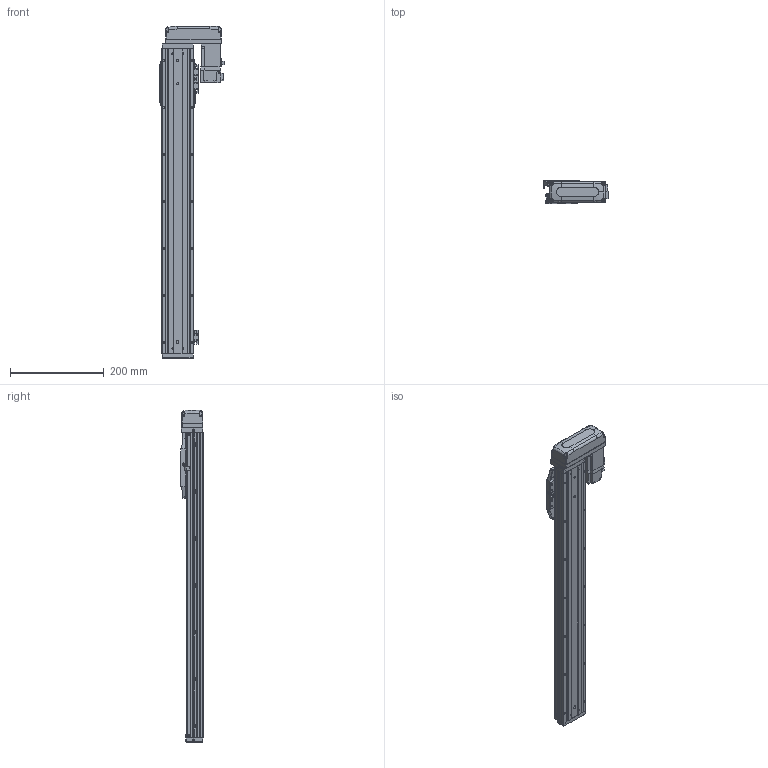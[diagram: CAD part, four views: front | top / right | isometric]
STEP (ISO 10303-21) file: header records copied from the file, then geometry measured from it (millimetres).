
FILE_DESCRIPTION (( 'STEP AP203' ), '1' );
FILE_NAME ('CTHA60-500-BL-M10-C4L.step', '2022-03-19T06:14:33', ( '微软用户' ), ( '微软中国' ), 'SwSTEP 2.0', 'SolidWorks 2020', '' );
FILE_SCHEMA (( 'CONFIG_CONTROL_DESIGN' ));
Length unit declared in the file: millimetre
Products named in the file (18): CTHA60-031; CTHA60-004; GBT77-2000 M3×3; CTHA60-006-1; CTHA60-005; GBT 70.1-M3℅6; CTHA60-033; GB¨uT 70.2-M3¡Á6_M3¡Á6; GBT 70.3-M3℅6; CTHA60-500-BL-M10-C4L; EE_SX911P_R; CTHA60-016; CTHA60-017; HG-KR13（三菱）; CTHA60-021; CTHA60-002; CTHA60-001_650; GBT 70.1-M4×16
Assembly tree (54 placements, depth 2):
  CTHA60-500-BL-M10-C4L
    CTHA60-001_650
    CTHA60-004
    CTHA60-005
    GB¨uT 70.2-M3¡Á6_M3¡Á6  x10
    EE_SX911P_R  x3
    CTHA60-017  x3
    CTHA60-021  x2
    GBT 70.1-M4×16  x10
    GBT77-2000 M3×3  x6
    GBT 70.1-M3℅6  x6
    GBT 70.3-M3℅6  x4
    CTHA60-016  x2
    HG-KR13（三菱）
    CTHA60-002
    CTHA60-031
    CTHA60-006-1
    CTHA60-033
Bounding box: 137.1 x 48 x 707 mm (x, y, z)
Volume: 1259625.5 mm3; surface area: 382484 mm2
Topology: 56 solids, 56 shells, 2514 faces, 6037 edges, 3721 vertices
Faces by surface type: plane 1449, cylinder 577, cone 340, torus 92, bspline 32, sphere 24
Entity records: 45011 total; most frequent: CARTESIAN_POINT 8698, DIRECTION 6946, ORIENTED_EDGE 6882, EDGE_CURVE 3441, VECTOR 2442, LINE 2442, AXIS2_PLACEMENT_3D 2252, VERTEX_POINT 2180
